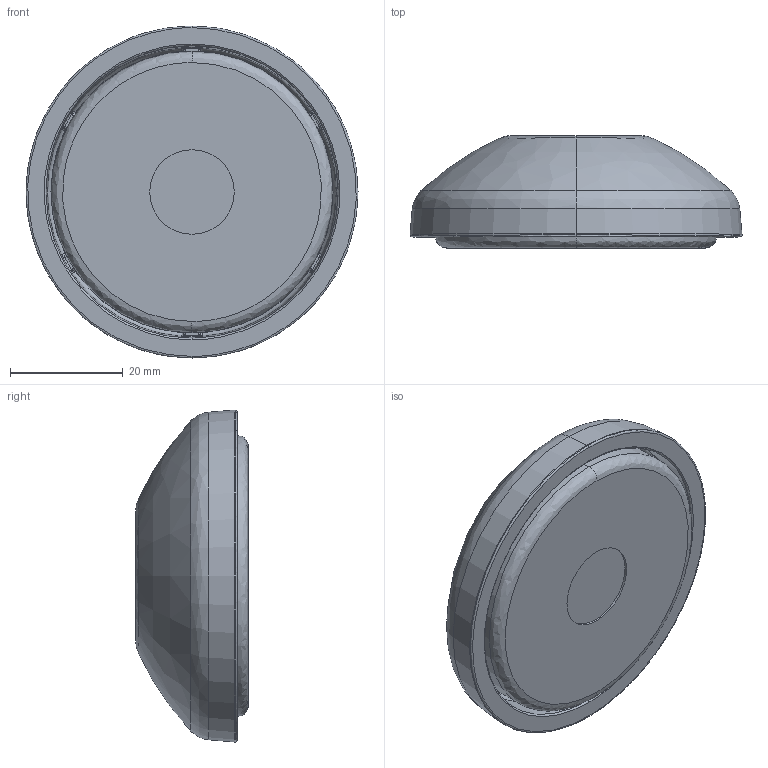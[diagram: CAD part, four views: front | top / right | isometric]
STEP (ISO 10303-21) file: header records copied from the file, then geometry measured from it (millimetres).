
FILE_DESCRIPTION (( 'STEP AP214' ), '1' );
FILE_NAME ('6.04.spaf60.STEP', '2015-05-31T09:09:51', ( '' ), ( '' ), 'SwSTEP 2.0', 'SolidWorks 2015', '' );
FILE_SCHEMA (( 'AUTOMOTIVE_DESIGN' ));
Length unit declared in the file: millimetre
Products named in the file (1): 6.04.spaf60
Bounding box: 59 x 20 x 59 mm (x, y, z)
Volume: 29822.8 mm3; surface area: 15409.4 mm2
Topology: 2 solids, 2 shells, 396 faces, 935 edges, 523 vertices
Faces by surface type: bspline 286, plane 39, cylinder 38, cone 33
Entity records: 21014 total; most frequent: CARTESIAN_POINT 9567, ORIENTED_EDGE 1818, DIRECTION 1027, EDGE_CURVE 909, VERTEX_POINT 523, AXIS2_PLACEMENT_3D 466, B_SPLINE_CURVE_WITH_KNOTS 442, EDGE_LOOP 402
